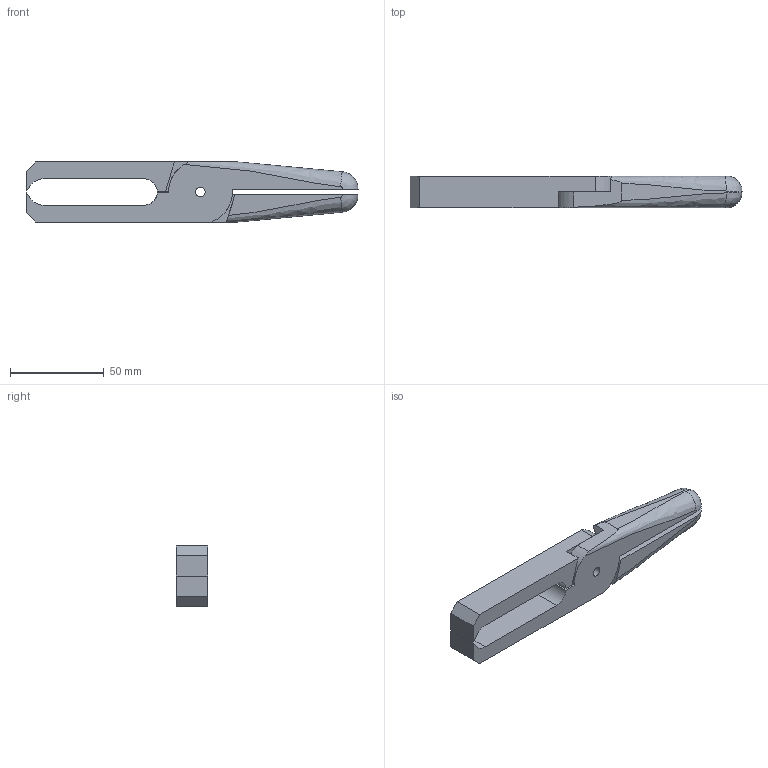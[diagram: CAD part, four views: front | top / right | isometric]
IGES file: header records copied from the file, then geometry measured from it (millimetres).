
Global section: file name: N30AEL; native system: unknown; preprocessor: unknown; author: unknown; organization: unknown; date: 20210430.142617; units: millimetre
Bounding box: 177 x 17 x 32 mm (x, y, z)
Volume: 65013.1 mm3; surface area: 21834.3 mm2
Topology: 2 solids, 2 shells, 50 faces, 137 edges, 91 vertices
Faces by surface type: bspline 50
